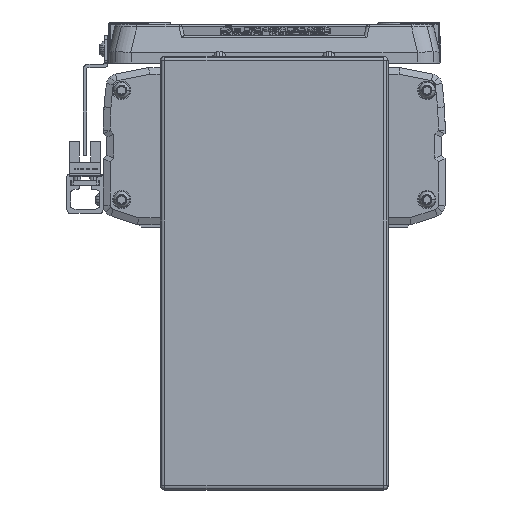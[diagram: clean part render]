
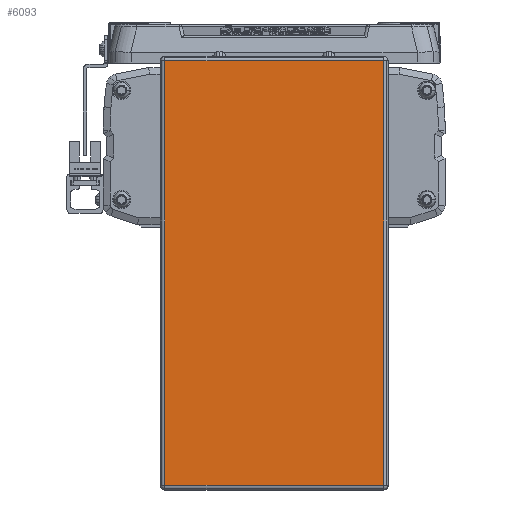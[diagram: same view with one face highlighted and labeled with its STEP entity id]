
A CAD part, left-side view. The second image highlights one B-rep face of the part: STEP entity #6093.
In plain terms, the highlighted planar face has unit normal (-1, 0, 0).
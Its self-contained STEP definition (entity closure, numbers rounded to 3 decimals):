
#6093=ADVANCED_FACE('',(#13198),#13199,.T.);
#13198=FACE_OUTER_BOUND('',#22789,.T.);
#13199=PLANE('',#22790);
#22789=EDGE_LOOP('',(#39629,#39630,#39631,#39632));
#22790=AXIS2_PLACEMENT_3D('',#39633,#39634,#39635);
#39629=ORIENTED_EDGE('',*,*,#56563,.F.);
#39630=ORIENTED_EDGE('',*,*,#56348,.F.);
#39631=ORIENTED_EDGE('',*,*,#56564,.F.);
#39632=ORIENTED_EDGE('',*,*,#53215,.F.);
#39633=CARTESIAN_POINT('',(-45.,0.,-64.2));
#39634=DIRECTION('',(-1.0,0.,0.));
#39635=DIRECTION('',(0.,1.0,0.));
#53215=EDGE_CURVE('',#64686,#64688,#64689,.T.);
#56348=EDGE_CURVE('',#59423,#69282,#69283,.T.);
#56563=EDGE_CURVE('',#69282,#64686,#69550,.T.);
#56564=EDGE_CURVE('',#64688,#59423,#69551,.T.);
#59423=VERTEX_POINT('',#72994);
#64686=VERTEX_POINT('',#80255);
#64688=VERTEX_POINT('',#80257);
#64689=LINE('',#80258,#80259);
#69282=VERTEX_POINT('',#86910);
#69283=LINE('',#86911,#86912);
#69550=LINE('',#87295,#87296);
#69551=LINE('',#87297,#87298);
#72994=CARTESIAN_POINT('',(-45.,48.,-157.4));
#80255=CARTESIAN_POINT('',(-45.,-48.,29.));
#80257=CARTESIAN_POINT('',(-45.,-48.,-157.4));
#80258=CARTESIAN_POINT('',(-45.,-48.,-64.2));
#80259=VECTOR('',#96052,10.0);
#86910=CARTESIAN_POINT('',(-45.,48.,29.));
#86911=CARTESIAN_POINT('',(-45.,48.,-64.2));
#86912=VECTOR('',#100021,10.0);
#87295=CARTESIAN_POINT('',(-45.,0.,29.));
#87296=VECTOR('',#100264,10.0);
#87297=CARTESIAN_POINT('',(-45.,0.,-157.4));
#87298=VECTOR('',#100265,10.0);
#96052=DIRECTION('',(0.,0.,-1.0));
#100021=DIRECTION('',(0.,0.,1.0));
#100264=DIRECTION('',(0.0,-1.0,0.));
#100265=DIRECTION('',(0.0,1.0,0.));
